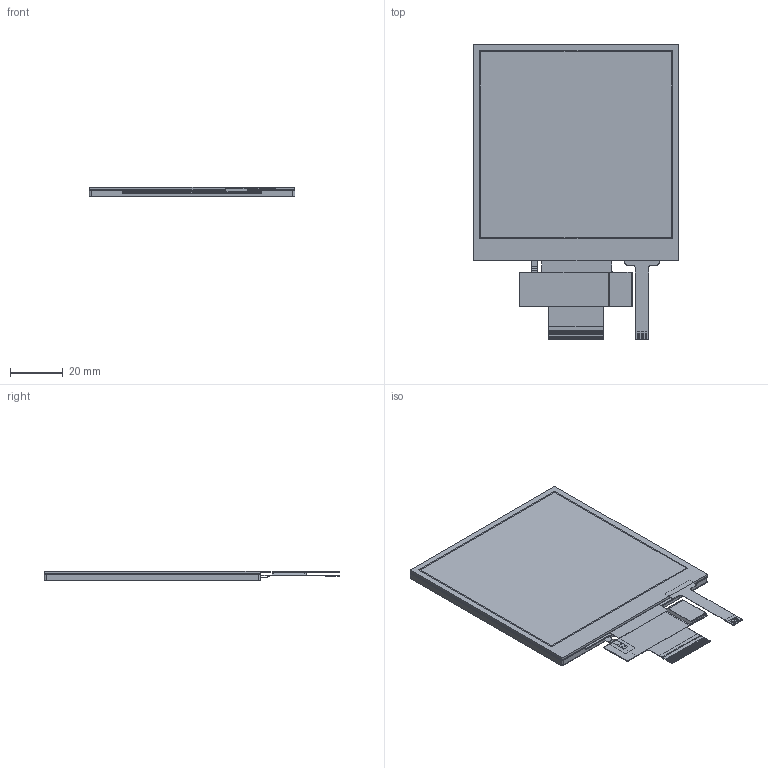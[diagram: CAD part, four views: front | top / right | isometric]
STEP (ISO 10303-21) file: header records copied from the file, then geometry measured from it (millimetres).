
FILE_DESCRIPTION (( 'STEP AP203' ), '1' );
FILE_NAME ('NHD-4.0-480480AF-ASXP-T_Rev1A.STEP', '2025-05-02T15:37:34', ( '' ), ( '' ), 'SwSTEP 2.0', 'SolidWorks 2019', '' );
FILE_SCHEMA (( 'CONFIG_CONTROL_DESIGN' ));
Length unit declared in the file: millimetre
Products named in the file (1): NHD-4.0-480480AF-ASXP-T_Rev1A
Bounding box: 77.86 x 111.84 x 3.6 mm (x, y, z)
Volume: 22054.9 mm3; surface area: 103797 mm2
Topology: 63 solids, 63 shells, 535 faces, 1209 edges, 802 vertices
Faces by surface type: plane 476, cylinder 59
Entity records: 14698 total; most frequent: CARTESIAN_POINT 2547, ORIENTED_EDGE 2418, DIRECTION 2399, EDGE_CURVE 1209, LINE 1091, VECTOR 1091, VERTEX_POINT 802, AXIS2_PLACEMENT_3D 654
